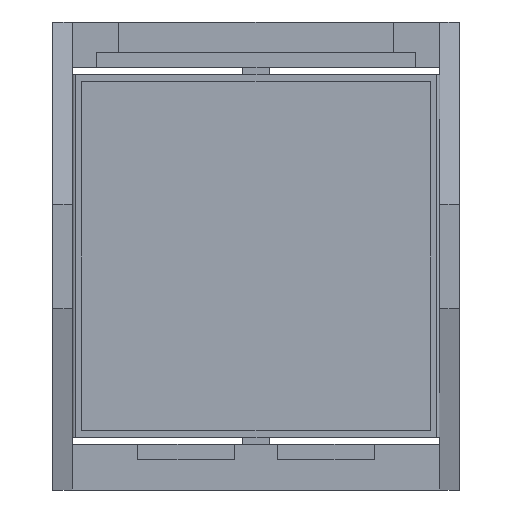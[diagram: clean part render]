
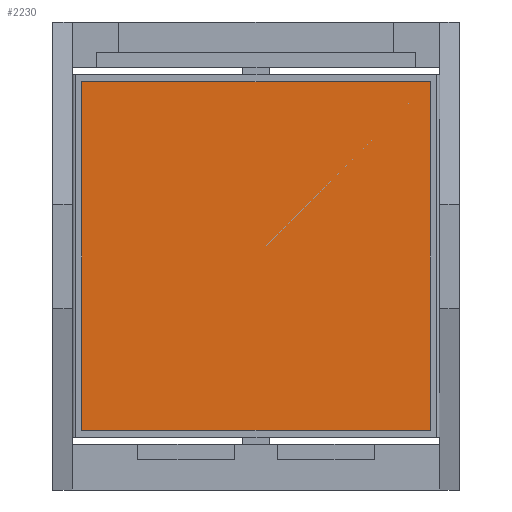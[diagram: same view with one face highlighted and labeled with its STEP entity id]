
A CAD part, front view. The second image highlights one B-rep face of the part: STEP entity #2230.
In plain terms, the highlighted planar face has unit normal (0, -1, 0).
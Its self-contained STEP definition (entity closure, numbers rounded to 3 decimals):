
#31 = CARTESIAN_POINT ( 'NONE',  ( -12.7, -0.127, -12.7 ) ) ;
#314 = VERTEX_POINT ( 'NONE', #7639 ) ;
#365 = PLANE ( 'NONE',  #2584 ) ;
#443 = VERTEX_POINT ( 'NONE', #1358 ) ;
#888 = VERTEX_POINT ( 'NONE', #6147 ) ;
#930 = EDGE_CURVE ( 'NONE', #443, #314, #7321, .T. ) ;
#1358 = CARTESIAN_POINT ( 'NONE',  ( 12.7, -0.127, 12.7 ) ) ;
#1621 = DIRECTION ( 'NONE',  ( 0., 0., 1. ) ) ;
#1983 = EDGE_CURVE ( 'NONE', #888, #443, #6213, .T. ) ;
#2014 = CARTESIAN_POINT ( 'NONE',  ( -12.7, -0.127, 12.7 ) ) ;
#2230 = ADVANCED_FACE ( 'NONE', ( #5845 ), #365, .F. ) ;
#2584 = AXIS2_PLACEMENT_3D ( 'NONE', #2748, #7166, #1621 ) ;
#2614 = DIRECTION ( 'NONE',  ( 1., 0., 0. ) ) ;
#2748 = CARTESIAN_POINT ( 'NONE',  ( -12.7, -0.127, 12.7 ) ) ;
#2951 = VECTOR ( 'NONE', #2614, 1000. ) ;
#3445 = ORIENTED_EDGE ( 'NONE', *, *, #6473, .F. ) ;
#4327 = VERTEX_POINT ( 'NONE', #5940 ) ;
#4353 = DIRECTION ( 'NONE',  ( 0., 0., -1. ) ) ;
#4679 = VECTOR ( 'NONE', #5793, 1000. ) ;
#4917 = VECTOR ( 'NONE', #4353, 1000. ) ;
#5641 = EDGE_CURVE ( 'NONE', #4327, #888, #6397, .T. ) ;
#5793 = DIRECTION ( 'NONE',  ( 0., 0., 1. ) ) ;
#5845 = FACE_OUTER_BOUND ( 'NONE', #6163, .T. ) ;
#5940 = CARTESIAN_POINT ( 'NONE',  ( -12.7, -0.127, -12.7 ) ) ;
#6147 = CARTESIAN_POINT ( 'NONE',  ( -12.7, -0.127, 12.7 ) ) ;
#6163 = EDGE_LOOP ( 'NONE', ( #6783, #3445, #6173, #7443 ) ) ;
#6173 = ORIENTED_EDGE ( 'NONE', *, *, #930, .F. ) ;
#6213 = LINE ( 'NONE', #2014, #2951 ) ;
#6315 = LINE ( 'NONE', #7623, #6420 ) ;
#6397 = LINE ( 'NONE', #31, #4679 ) ;
#6420 = VECTOR ( 'NONE', #7045, 1000. ) ;
#6473 = EDGE_CURVE ( 'NONE', #314, #4327, #6315, .T. ) ;
#6783 = ORIENTED_EDGE ( 'NONE', *, *, #5641, .F. ) ;
#7045 = DIRECTION ( 'NONE',  ( -1., 0., 0. ) ) ;
#7166 = DIRECTION ( 'NONE',  ( 0., 1., 0. ) ) ;
#7321 = LINE ( 'NONE', #8008, #4917 ) ;
#7443 = ORIENTED_EDGE ( 'NONE', *, *, #1983, .F. ) ;
#7623 = CARTESIAN_POINT ( 'NONE',  ( -12.7, -0.127, -12.7 ) ) ;
#7639 = CARTESIAN_POINT ( 'NONE',  ( 12.7, -0.127, -12.7 ) ) ;
#8008 = CARTESIAN_POINT ( 'NONE',  ( 12.7, -0.127, -12.7 ) ) ;
